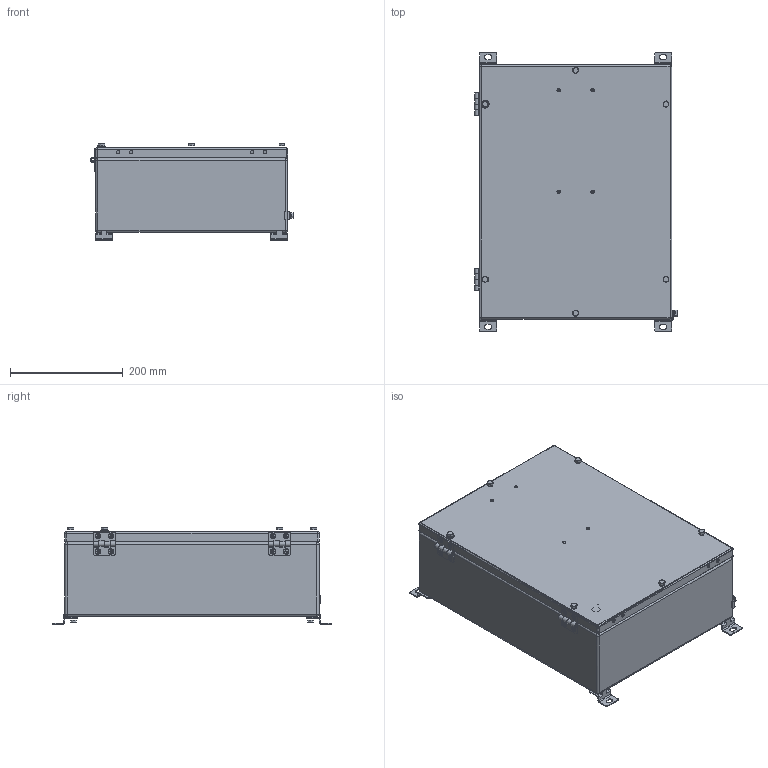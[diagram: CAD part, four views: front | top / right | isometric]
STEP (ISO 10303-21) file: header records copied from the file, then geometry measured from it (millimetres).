
FILE_DESCRIPTION((''),'2;1');
FILE_NAME('\\192.168.5.25\cortem_klient\INVENTOR БАЗА МОДЕЛЕЙ\Актуальная база моделей для отдела продаж\КСРВ-Н\КСРВ-Н453415_М5.stp','2019-04-09T14:15:40',('A.S.Kozlov'),(''),'Autodesk Inventor 2012','Autodesk Inventor 2012','');
FILE_SCHEMA(('CONFIG_CONTROL_DESIGN'));
Length unit declared in the file: millimetre
Products named in the file (1): КСРВ-(параметрическая модель)_Внешний контур_1
Bounding box: 359.19 x 494 x 171.2 mm (x, y, z)
Surface area: 780080.5 mm2 (no closed solid volume)
Topology: 0 solids, 73 shells, 291 faces, 1254 edges, 964 vertices
Faces by surface type: plane 176, cylinder 95, sphere 12, cone 8
Full cylindrical faces by diameter (mm): 5.9 x4, 6.1 x1, 10 x4, 12 x1, 14 x1
Entity records: 13279 total; most frequent: CARTESIAN_POINT 2660, DIRECTION 2151, ORIENTED_EDGE 1639, EDGE_CURVE 1222, VERTEX_POINT 954, AXIS2_PLACEMENT_3D 733, VECTOR 685, LINE 685
